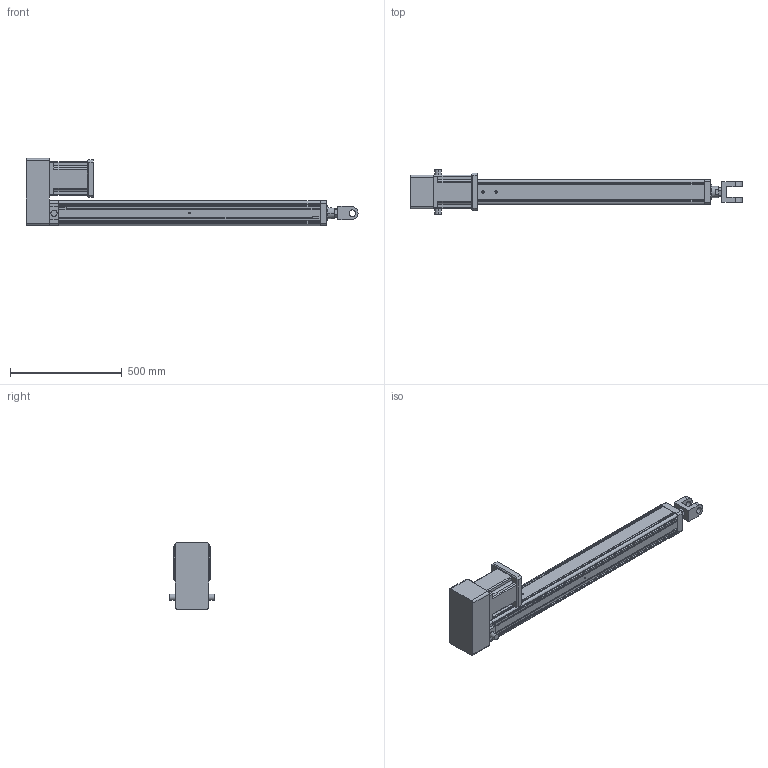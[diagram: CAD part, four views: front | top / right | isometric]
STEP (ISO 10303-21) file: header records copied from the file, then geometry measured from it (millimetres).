
FILE_DESCRIPTION (( 'STEP AP203' ), '1' );
FILE_NAME ('YRJ110-L1000-H4K4.STEP', '2020-01-06T01:27:22', ( 'User' ), ( 'China' ), 'SwSTEP 2.0', 'SolidWorks 2016', '' );
FILE_SCHEMA (( 'CONFIG_CONTROL_DESIGN' ));
Length unit declared in the file: millimetre
Products named in the file (7): YRJ110-L1000-H4K4; 095-100俴最倰第; 142熬厒儂; H5-110-1; H5-110-2; 萇儂碟-110; K4-110
Assembly tree (6 placements, depth 2):
  YRJ110-L1000-H4K4
    095-100俴最倰第
    142熬厒儂
    H5-110-1
    H5-110-2
    萇儂碟-110
    K4-110
Bounding box: 1486 x 200 x 300.5 mm (x, y, z)
Volume: 14846579.2 mm3; surface area: 1530370.8 mm2
Topology: 6 solids, 6 shells, 331 faces, 904 edges, 585 vertices
Faces by surface type: plane 188, cylinder 116, cone 27
Entity records: 11430 total; most frequent: CARTESIAN_POINT 2153, DIRECTION 1793, ORIENTED_EDGE 1776, EDGE_CURVE 888, LINE 619, VECTOR 619, AXIS2_PLACEMENT_3D 587, VERTEX_POINT 585
